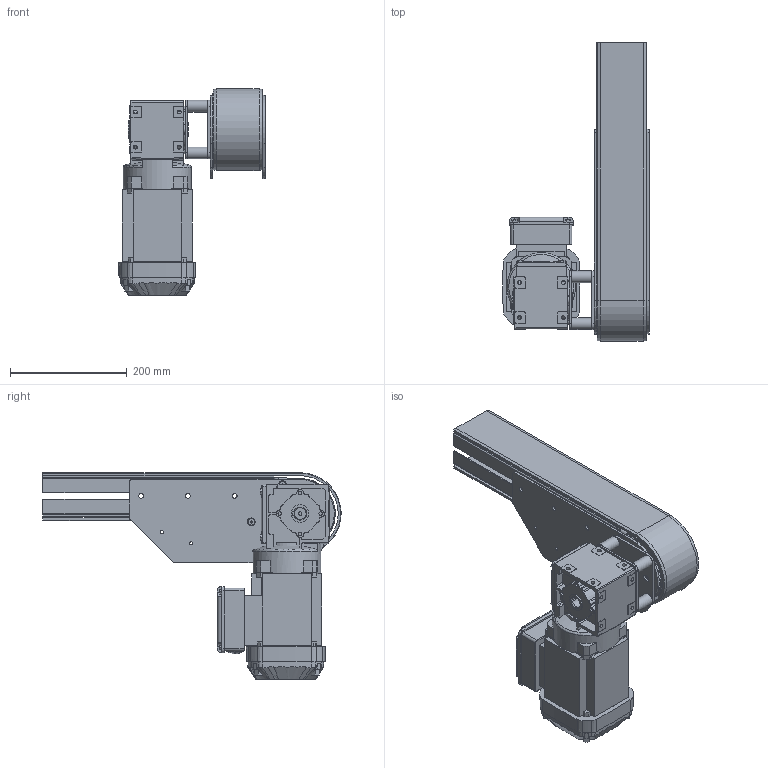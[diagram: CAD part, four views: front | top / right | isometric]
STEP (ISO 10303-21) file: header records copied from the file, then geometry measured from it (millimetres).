
FILE_DESCRIPTION(/* description */ ('DRIVE UNIT S530'),/* implementation_level */ '2;1');
FILE_NAME(/* name */ '530-30-VR.stp',/* time_stamp */ '2022-09-20T12:16:04+02:00',/* author */ ('PL'),/* organization */ ('CARRYLINE'),/* preprocessor_version */ 'ST-DEVELOPER v19.2',/* originating_system */ 'Autodesk Inventor 2023',/* authorisation */ '');
FILE_SCHEMA (('AUTOMOTIVE_DESIGN { 1 0 10303 214 3 1 1 }'));
Length unit declared in the file: millimetre
Products named in the file (6): 530-30-VR; Drivände S530; 900-4030; 500-3077; 500-3150; 500-3075
Assembly tree (8 placements, depth 2):
  530-30-VR
    Drivände S530
    900-4030
    500-3077
    500-3150  x4
    500-3075
Bounding box: 250.41 x 509.96 x 353 mm (x, y, z)
Volume: 5638020.4 mm3; surface area: 787085.6 mm2
Topology: 8 solids, 10 shells, 1145 faces, 3097 edges, 2008 vertices
Faces by surface type: plane 597, cylinder 426, cone 86, bspline 33, sphere 2, torus 1
Full cylindrical faces by diameter (mm): 5.2 x4, 6 x15, 6.2 x6, 6.6 x8, 6.647 x4, 8.2 x6, 10.2 x4, 11 x8, 11.34 x5, 20 x5, 25 x1, 26 x3, 28 x1, 30 x2, 37 x1, 117 x1
Entity records: 38422 total; most frequent: CARTESIAN_POINT 8848, DIRECTION 6113, ORIENTED_EDGE 6092, EDGE_CURVE 3046, AXIS2_PLACEMENT_3D 2126, VERTEX_POINT 1981, LINE 1861, VECTOR 1861
